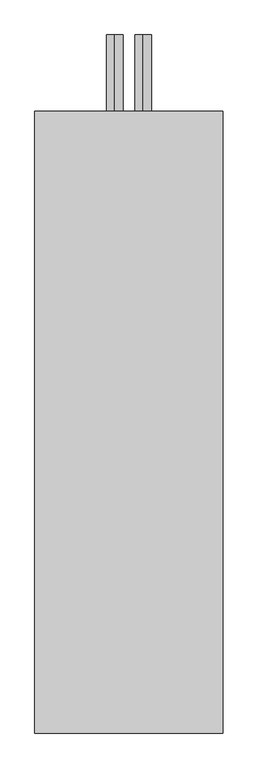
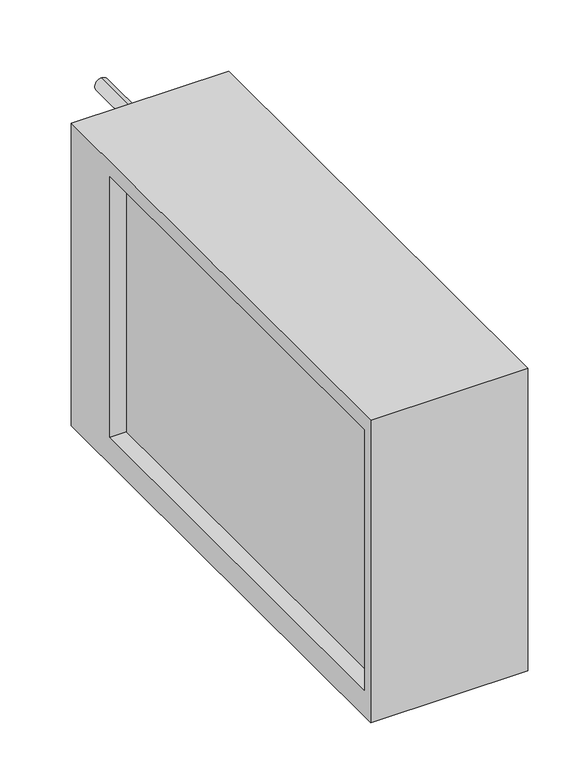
"""IFC4 building model written with IfcOpenShell, lengths in millimetres: proxy geometry, СВ_ВоздухоохладительВодяной_КанальныйПрямоугольный_200-1000_SPC-W : SPC-W-800x500-L."""

from ifc_helpers import new_model, si_unit, point, frame, frame_2d, origin, place, context, project, spatial, polyline, circle_curve, trimmed, segment, composite_curve, outline, extrude, source, transform, mapped, element, save


def mechanical_equipment_d7d3e3e1(model_context):
    return source(origin(), model_context, "Body", "SweptSolid", [
        extrude(outline(polyline([(-420.0, -300.0), (-420.0, 280.0), (520.0, 280.0), (520.0, -300.0), (-420.0, -300.0)]), holes=[polyline([(-400.0, 250.0), (-400.0, -250.0), (400.0, -250.0), (400.0, 250.0), (-400.0, 250.0)])]), frame((-142.5, 0.0, 0.0), z_axis=(1.0, 0.0, 0.0), x_axis=(0.0, 1.0, 0.0)), (0.0, 0.0, 1.0), 285.0),
        extrude(outline(composite_curve([segment(trimmed(circle_curve(frame_2d((-242.5, 21.5)), 12.5), [point((-255.0, 21.5))], [point((-230.0, 21.5))], False, "CARTESIAN"), True, "CONTINUOUS"), segment(trimmed(circle_curve(frame_2d((-242.5, 21.5)), 12.5), [point((-230.0, 21.5))], [point((-255.0, 21.5))], False, "CARTESIAN"), True, "CONTINUOUS")], self_intersect=False)), frame((0.0, 520.0, 0.0), z_axis=(0.0, 1.0, 0.0), x_axis=(0.0, 0.0, 1.0)), (0.0, 0.0, 1.0), 115.0),
        extrude(outline(composite_curve([segment(trimmed(circle_curve(frame_2d((242.5, -21.5)), 12.5), [point((230.0, -21.5))], [point((255.0, -21.5))], False, "CARTESIAN"), True, "CONTINUOUS"), segment(trimmed(circle_curve(frame_2d((242.5, -21.5)), 12.5), [point((255.0, -21.5))], [point((230.0, -21.5))], False, "CARTESIAN"), True, "CONTINUOUS")], self_intersect=False)), frame((0.0, 520.0, 0.0), z_axis=(0.0, 1.0, 0.0), x_axis=(0.0, 0.0, 1.0)), (0.0, 0.0, 1.0), 115.0),
        extrude(outline(composite_curve([segment(trimmed(circle_curve(frame_2d((0.0, 480.0)), 11.0), [point((-11.0, 480.0))], [point((11.0, 480.0))], False, "CARTESIAN"), True, "CONTINUOUS"), segment(trimmed(circle_curve(frame_2d((0.0, 480.0)), 11.0), [point((11.0, 480.0))], [point((-11.0, 480.0))], False, "CARTESIAN"), True, "CONTINUOUS")], self_intersect=False)), frame((0.0, 0.0, -320.0), z_axis=(0.0, 0.0, 1.0), x_axis=(1.0, 0.0, 0.0)), (0.0, 0.0, 1.0), 20.0),
        extrude(outline(polyline([(112.5, 400.0), (112.5, -400.0), (-112.5, -400.0), (-112.5, 400.0), (112.5, 400.0)])), frame((0.0, 0.0, -250.0), z_axis=(0.0, 0.0, 1.0), x_axis=(1.0, 0.0, 0.0)), (0.0, 0.0, 1.0), 500.0),
    ])


if __name__ == "__main__":
    model = new_model("IFC4")
    model_context = context("Model", 3, world=origin())
    ifc_project = project(units=[si_unit("LENGTHUNIT", "METRE", prefix="MILLI")], contexts=[model_context])
    site = spatial("IfcSite", under=ifc_project)
    building = spatial("IfcBuilding", under=site)
    placement = place(None, origin())
    mechanical_equipment_shape = mechanical_equipment_d7d3e3e1(model_context)
    element("IfcBuildingElementProxy", 1, Name="СВ_ВоздухоохладительВодяной_КанальныйПрямоугольный_200-1000_SPC-W : SPC-W-800x500-L", ObjectType="СВ_ВоздухоохладительВодяной_КанальныйПрямоугольный_200-1000_SPC-W : SPC-W-800x500-L", at=placement, inside=building, context=model_context, shape_type="MappedRepresentation", body=[
        mapped(mechanical_equipment_shape, transform((0.0, 0.0, 0.0), x_axis=(1.0, 0.0, 0.0), y_axis=(0.0, 1.0, 0.0), z_axis=(0.0, 0.0, 1.0))),
    ])
    save(model, "model.ifc")
